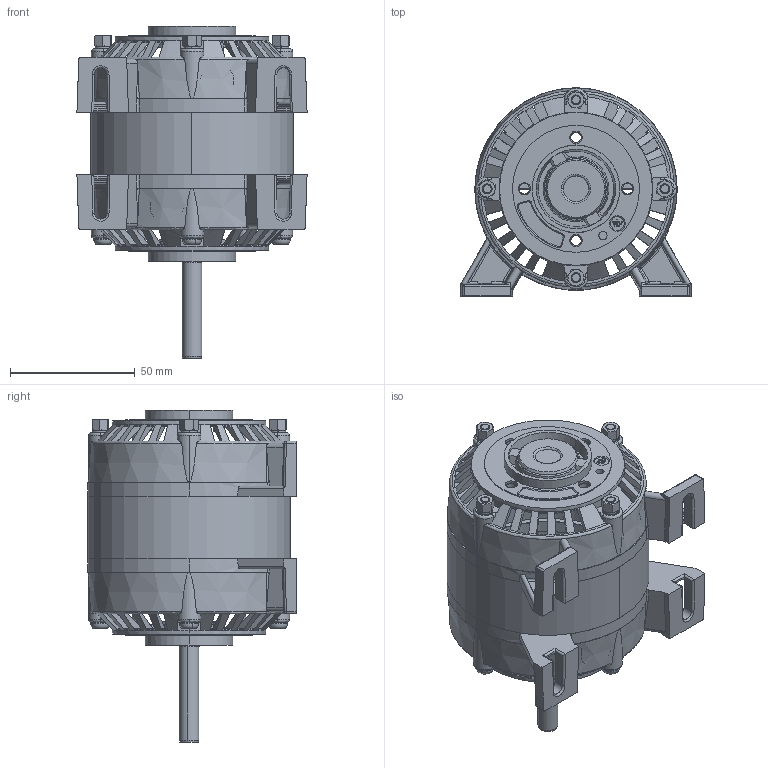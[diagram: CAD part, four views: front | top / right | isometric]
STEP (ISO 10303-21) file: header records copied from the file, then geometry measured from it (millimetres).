
FILE_DESCRIPTION (( 'STEP AP214' ), '1' );
FILE_NAME ('SD21 VENT F.STEP', '2021-07-05T09:51:26', ( '' ), ( '' ), 'SwSTEP 2.0', 'SolidWorks 2020', '' );
FILE_SCHEMA (( 'AUTOMOTIVE_DESIGN' ));
Length unit declared in the file: millimetre
Products named in the file (1): SD21 VENT F
Bounding box: 92.08 x 83.35 x 132.82 mm (x, y, z)
Surface area: 58816.6 mm2 (no closed solid volume)
Topology: 0 solids, 24 shells, 824 faces, 3132 edges, 2246 vertices
Faces by surface type: plane 316, cylinder 289, cone 116, bspline 79, torus 20, sphere 4
Entity records: 49381 total; most frequent: CARTESIAN_POINT 15075, ORIENTED_EDGE 5182, DIRECTION 5028, EDGE_CURVE 3119, VERTEX_POINT 2246, AXIS2_PLACEMENT_3D 1784, VECTOR 1460, LINE 1460
